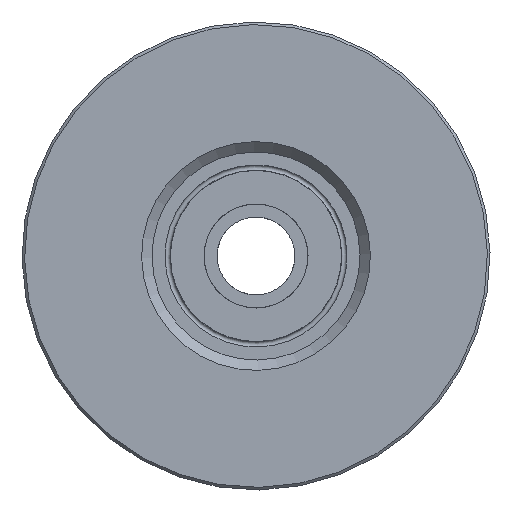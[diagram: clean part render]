
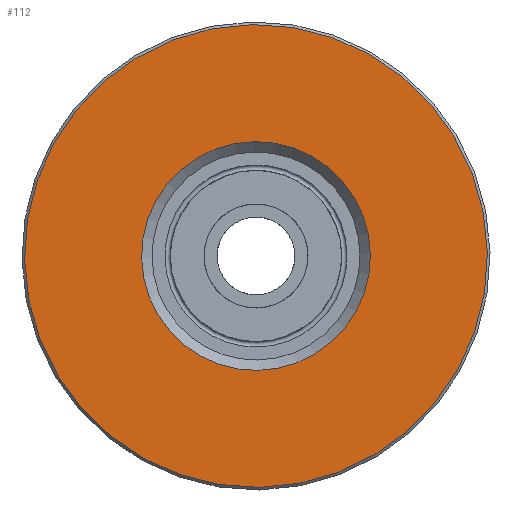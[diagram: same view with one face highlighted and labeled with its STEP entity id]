
A CAD part, front view. The second image highlights one B-rep face of the part: STEP entity #112.
In plain terms, the highlighted planar face has unit normal (0, -1, 0).
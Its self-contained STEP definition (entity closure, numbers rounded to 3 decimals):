
#112 = ADVANCED_FACE('',(#113,#149),#126,.F.);
#113 = FACE_BOUND('',#114,.T.);
#114 = EDGE_LOOP('',(#115));
#115 = ORIENTED_EDGE('',*,*,#116,.T.);
#116 = EDGE_CURVE('',#117,#117,#119,.T.);
#117 = VERTEX_POINT('',#118);
#118 = CARTESIAN_POINT('',(0.,-4.25,4.4));
#119 = SURFACE_CURVE('',#120,(#125,#137),.PCURVE_S1.);
#120 = CIRCLE('',#121,4.4);
#121 = AXIS2_PLACEMENT_3D('',#122,#123,#124);
#122 = CARTESIAN_POINT('',(0.,-4.25,0.));
#123 = DIRECTION('',(0.,1.,0.));
#124 = DIRECTION('',(0.,-0.,1.));
#125 = PCURVE('',#126,#131);
#126 = PLANE('',#127);
#127 = AXIS2_PLACEMENT_3D('',#128,#129,#130);
#128 = CARTESIAN_POINT('',(4.,-4.25,0.));
#129 = DIRECTION('',(0.,1.,0.));
#130 = DIRECTION('',(0.,-0.,1.));
#131 = DEFINITIONAL_REPRESENTATION('',(#132),#136);
#132 = CIRCLE('',#133,4.4);
#133 = AXIS2_PLACEMENT_2D('',#134,#135);
#134 = CARTESIAN_POINT('',(0.,-4.));
#135 = DIRECTION('',(1.,0.));
#136 = ( GEOMETRIC_REPRESENTATION_CONTEXT(2) 
PARAMETRIC_REPRESENTATION_CONTEXT() REPRESENTATION_CONTEXT('2D SPACE',''
  ) );
#137 = PCURVE('',#138,#143);
#138 = CONICAL_SURFACE('',#139,4.4,0.785);
#139 = AXIS2_PLACEMENT_3D('',#140,#141,#142);
#140 = CARTESIAN_POINT('',(0.,-4.25,0.));
#141 = DIRECTION('',(0.,-1.,0.));
#142 = DIRECTION('',(0.,0.,-1.));
#143 = DEFINITIONAL_REPRESENTATION('',(#144),#148);
#144 = LINE('',#145,#146);
#145 = CARTESIAN_POINT('',(9.425,0.));
#146 = VECTOR('',#147,1.);
#147 = DIRECTION('',(-1.,0.));
#148 = ( GEOMETRIC_REPRESENTATION_CONTEXT(2) 
PARAMETRIC_REPRESENTATION_CONTEXT() REPRESENTATION_CONTEXT('2D SPACE',''
  ) );
#149 = FACE_BOUND('',#150,.T.);
#150 = EDGE_LOOP('',(#151));
#151 = ORIENTED_EDGE('',*,*,#152,.T.);
#152 = EDGE_CURVE('',#153,#153,#155,.T.);
#153 = VERTEX_POINT('',#154);
#154 = CARTESIAN_POINT('',(0.,-4.25,8.9));
#155 = SURFACE_CURVE('',#156,(#161,#172),.PCURVE_S1.);
#156 = CIRCLE('',#157,8.9);
#157 = AXIS2_PLACEMENT_3D('',#158,#159,#160);
#158 = CARTESIAN_POINT('',(0.,-4.25,0.));
#159 = DIRECTION('',(0.,-1.,0.));
#160 = DIRECTION('',(0.,0.,1.));
#161 = PCURVE('',#126,#162);
#162 = DEFINITIONAL_REPRESENTATION('',(#163),#171);
#163 = ( BOUNDED_CURVE() B_SPLINE_CURVE(2,(#164,#165,#166,#167,#168,#169
,#170),.UNSPECIFIED.,.T.,.F.) B_SPLINE_CURVE_WITH_KNOTS((1,2,2,2,2,1),(
    -2.094,0.,2.094,4.189,6.283,
8.378),.UNSPECIFIED.) CURVE() GEOMETRIC_REPRESENTATION_ITEM() 
RATIONAL_B_SPLINE_CURVE((1.,0.5,1.,0.5,1.,0.5,1.)) REPRESENTATION_ITEM(
  '') );
#164 = CARTESIAN_POINT('',(8.9,-4.));
#165 = CARTESIAN_POINT('',(8.9,-19.415));
#166 = CARTESIAN_POINT('',(-4.45,-11.708));
#167 = CARTESIAN_POINT('',(-17.8,-4.));
#168 = CARTESIAN_POINT('',(-4.45,3.708));
#169 = CARTESIAN_POINT('',(8.9,11.415));
#170 = CARTESIAN_POINT('',(8.9,-4.));
#171 = ( GEOMETRIC_REPRESENTATION_CONTEXT(2) 
PARAMETRIC_REPRESENTATION_CONTEXT() REPRESENTATION_CONTEXT('2D SPACE',''
  ) );
#172 = PCURVE('',#173,#178);
#173 = CONICAL_SURFACE('',#174,9.,0.785);
#174 = AXIS2_PLACEMENT_3D('',#175,#176,#177);
#175 = CARTESIAN_POINT('',(0.,-4.15,0.));
#176 = DIRECTION('',(0.,1.,0.));
#177 = DIRECTION('',(0.,-0.,1.));
#178 = DEFINITIONAL_REPRESENTATION('',(#179),#183);
#179 = LINE('',#180,#181);
#180 = CARTESIAN_POINT('',(6.283,-0.1));
#181 = VECTOR('',#182,1.);
#182 = DIRECTION('',(-1.,0.));
#183 = ( GEOMETRIC_REPRESENTATION_CONTEXT(2) 
PARAMETRIC_REPRESENTATION_CONTEXT() REPRESENTATION_CONTEXT('2D SPACE',''
  ) );
